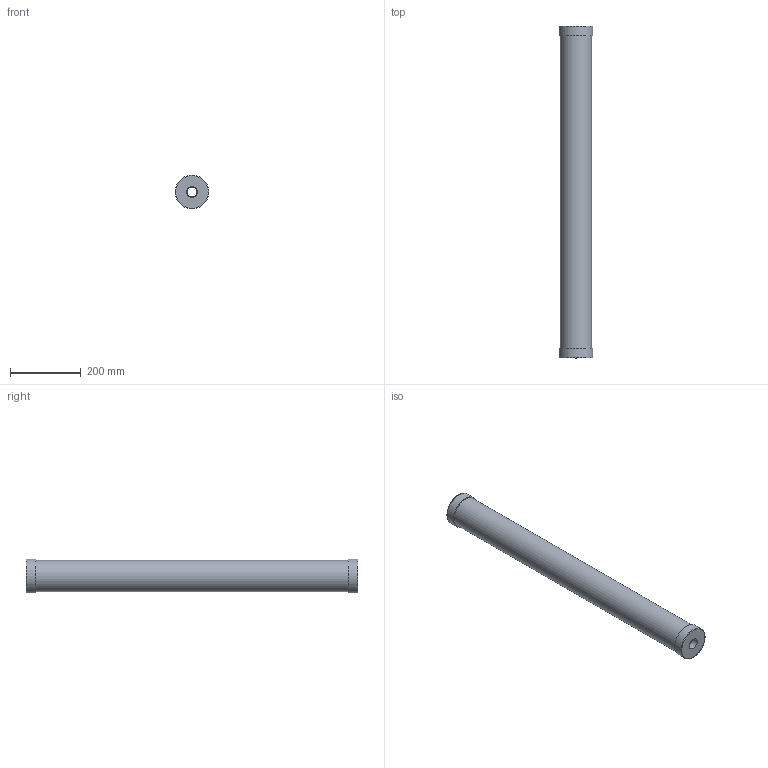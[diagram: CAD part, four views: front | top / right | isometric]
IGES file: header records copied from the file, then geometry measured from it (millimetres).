
Start section: SolidWorks IGES file using analytic representation for surfaces
Global section: file name: F:\Griffco-Valve\Griffco_current-projects\GV_web-files_2015\CAL cylinders\CC4000_P_BSPT.IGS; native system: SolidWorks 2014; preprocessor: SolidWorks 2014; author: Dan; date: 160321.043610; units: inch
Bounding box: 95.25 x 939.8 x 95.25 mm (x, y, z)
Surface area: 506340.5 mm2 (no closed solid volume)
Topology: 0 solids, 0 shells, 18 faces, 47 edges, 37 vertices
Faces by surface type: revolution 10, bspline 8
